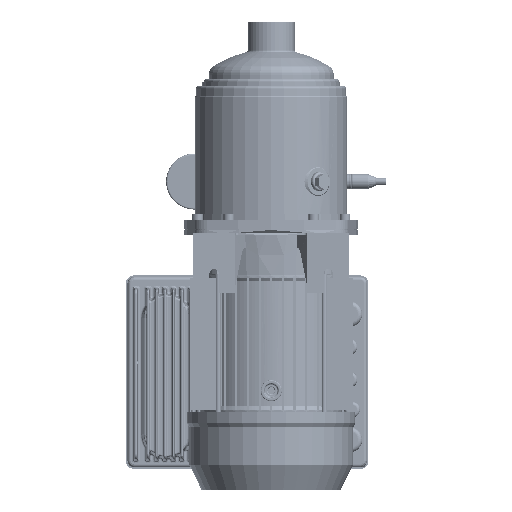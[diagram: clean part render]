
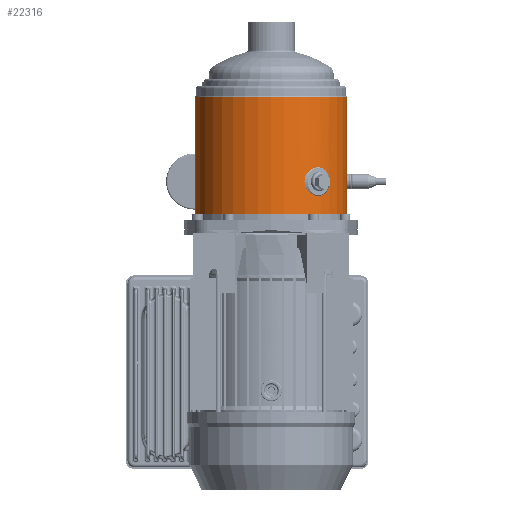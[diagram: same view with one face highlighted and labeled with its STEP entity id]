
A CAD part, front view. The second image highlights one B-rep face of the part: STEP entity #22316.
In plain terms, the highlighted cylindrical face has radius 72 mm (diameter 144 mm), a partial arc.
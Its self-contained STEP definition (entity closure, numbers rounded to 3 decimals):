
#19451=CARTESIAN_POINT('',(0.,8.4,0.));
#19452=DIRECTION('',(0.,1.,0.));
#19453=DIRECTION('',(0.,0.,-1.));
#19454=AXIS2_PLACEMENT_3D('',#19451,#19452,#19453);
#19525=DIRECTION('',(0.,1.,0.));
#19526=VECTOR('',#19525,110.614);
#19527=CARTESIAN_POINT('',(0.,8.4,-72.));
#19528=LINE('',#19527,#19526);
#19532=DIRECTION('',(0.,-1.,0.));
#19533=VECTOR('',#19532,110.614);
#19534=CARTESIAN_POINT('',(0.,119.014,72.));
#19535=LINE('',#19534,#19533);
#19539=CARTESIAN_POINT('',(-64.772,39.,
31.441));
#19540=CARTESIAN_POINT('',(-64.772,37.551,
31.441));
#19541=CARTESIAN_POINT('',(-64.552,34.752,
31.901));
#19542=CARTESIAN_POINT('',(-63.436,30.588,
34.11));
#19543=CARTESIAN_POINT('',(-61.387,27.256,
37.728));
#19544=CARTESIAN_POINT('',(-58.476,25.423,
42.129));
#19545=CARTESIAN_POINT('',(-55.02,25.424,
46.552));
#19546=CARTESIAN_POINT('',(-51.454,27.259,
50.44));
#19547=CARTESIAN_POINT('',(-48.44,30.593,
53.302));
#19548=CARTESIAN_POINT('',(-46.568,34.76,
54.919));
#19549=CARTESIAN_POINT('',(-46.177,37.554,
55.242));
#19550=CARTESIAN_POINT('',(-46.177,39.,
55.242));
#19555=CARTESIAN_POINT('',(-46.177,39.,
55.242));
#19556=CARTESIAN_POINT('',(-46.177,40.449,
55.242));
#19557=CARTESIAN_POINT('',(-46.57,43.248,
54.917));
#19558=CARTESIAN_POINT('',(-48.443,47.412,
53.3));
#19559=CARTESIAN_POINT('',(-51.458,50.744,
50.436));
#19560=CARTESIAN_POINT('',(-55.024,52.577,
46.547));
#19561=CARTESIAN_POINT('',(-58.48,52.576,
42.124));
#19562=CARTESIAN_POINT('',(-61.39,50.741,
37.723));
#19563=CARTESIAN_POINT('',(-63.438,47.407,
34.107));
#19564=CARTESIAN_POINT('',(-64.554,43.24,
31.899));
#19565=CARTESIAN_POINT('',(-64.772,40.446,
31.441));
#19566=CARTESIAN_POINT('',(-64.772,39.,
31.441));
#19579=CARTESIAN_POINT('',(0.,119.014,0.));
#19580=DIRECTION('',(0.,-1.,0.));
#19581=DIRECTION('',(0.,0.,1.));
#19582=AXIS2_PLACEMENT_3D('',#19579,#19580,#19581);
#21571=CARTESIAN_POINT('',(0.,8.4,72.));
#21572=CARTESIAN_POINT('',(0.,8.4,-72.));
#21573=VERTEX_POINT('',#21571);
#21574=VERTEX_POINT('',#21572);
#21575=CARTESIAN_POINT('',(0.,119.014,-72.));
#21576=VERTEX_POINT('',#21575);
#21577=CARTESIAN_POINT('',(0.,119.014,72.));
#21578=VERTEX_POINT('',#21577);
#21583=VERTEX_POINT('',#19539);
#21584=VERTEX_POINT('',#19550);
#22298=CARTESIAN_POINT('',(0.,121.227,0.));
#22299=DIRECTION('',(0.,-1.,0.));
#22300=DIRECTION('',(0.,0.,1.));
#22301=AXIS2_PLACEMENT_3D('',#22298,#22299,#22300);
#22302=CYLINDRICAL_SURFACE('',#22301,72.);
#22303=ORIENTED_EDGE('',*,*,#22276,.T.);
#22305=ORIENTED_EDGE('',*,*,#22304,.F.);
#22306=ORIENTED_EDGE('',*,*,#22279,.T.);
#22307=ORIENTED_EDGE('',*,*,#22266,.F.);
#22308=EDGE_LOOP('',(#22303,#22305,#22306,#22307));
#22309=FACE_OUTER_BOUND('',#22308,.F.);
#22311=ORIENTED_EDGE('',*,*,#22310,.T.);
#22313=ORIENTED_EDGE('',*,*,#22312,.T.);
#22314=EDGE_LOOP('',(#22311,#22313));
#22315=FACE_BOUND('',#22314,.F.);
#19455=CIRCLE('',#19454,72.);
#19551=B_SPLINE_CURVE_WITH_KNOTS('',3,(#19539,#19540,#19541,#19542,#19543,
#19544,#19545,#19546,#19547,#19548,#19549,#19550),.UNSPECIFIED.,.F.,.F.,(4,1,1,
1,1,1,1,1,1,4),(0.,0.111,0.222,0.333,
0.444,0.556,0.667,0.778,
0.889,1.),.UNSPECIFIED.);
#19567=B_SPLINE_CURVE_WITH_KNOTS('',3,(#19555,#19556,#19557,#19558,#19559,
#19560,#19561,#19562,#19563,#19564,#19565,#19566),.UNSPECIFIED.,.F.,.F.,(4,1,1,
1,1,1,1,1,1,4),(0.,0.111,0.222,0.333,
0.444,0.556,0.667,0.778,
0.889,1.),.UNSPECIFIED.);
#19583=CIRCLE('',#19582,72.);
#22266=EDGE_CURVE('',#21574,#21573,#19455,.T.);
#22276=EDGE_CURVE('',#21574,#21576,#19528,.T.);
#22279=EDGE_CURVE('',#21578,#21573,#19535,.T.);
#22304=EDGE_CURVE('',#21578,#21576,#19583,.T.);
#22310=EDGE_CURVE('',#21583,#21584,#19551,.T.);
#22312=EDGE_CURVE('',#21584,#21583,#19567,.T.);
#22316=ADVANCED_FACE('',(#22309,#22315),#22302,.T.);
